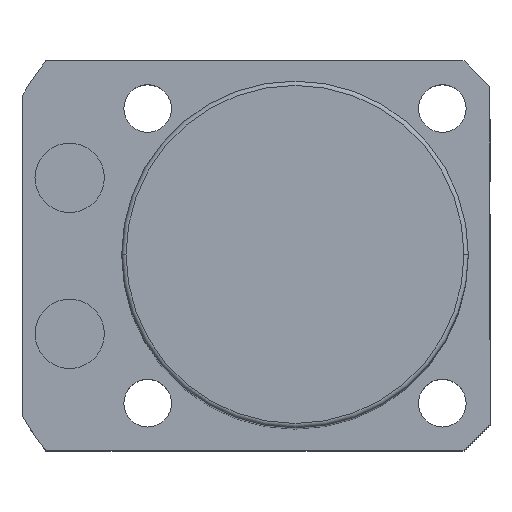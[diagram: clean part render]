
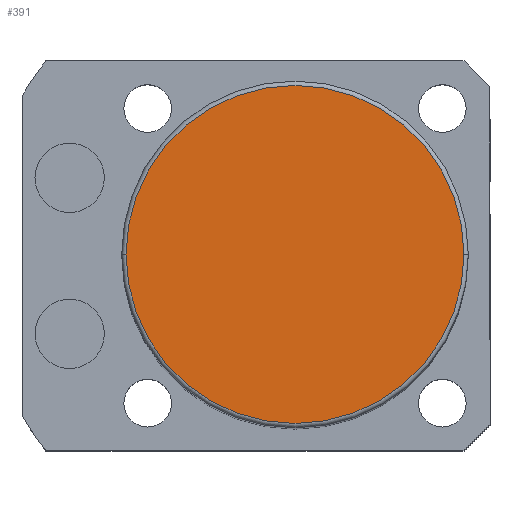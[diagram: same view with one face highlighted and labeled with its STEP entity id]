
A CAD part, top view. The second image highlights one B-rep face of the part: STEP entity #391.
In plain terms, the highlighted planar face has unit normal (0, 0, 1).
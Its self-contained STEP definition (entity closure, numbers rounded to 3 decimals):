
#75 = CARTESIAN_POINT ( 'NONE',  ( 0., 0., 103.5 ) ) ;
#217 = CARTESIAN_POINT ( 'NONE',  ( 19.5, 0., 103.5 ) ) ;
#261 = DIRECTION ( 'NONE',  ( 0., 0., 1. ) ) ;
#391 = ADVANCED_FACE ( 'NONE', ( #2283 ), #1813, .T. ) ;
#451 = VERTEX_POINT ( 'NONE', #217 ) ;
#626 = EDGE_CURVE ( 'NONE', #451, #1687, #1806, .T. ) ;
#687 = DIRECTION ( 'NONE',  ( 1., 0., 0. ) ) ;
#700 = DIRECTION ( 'NONE',  ( 0., 0., 1. ) ) ;
#736 = DIRECTION ( 'NONE',  ( 1., 0., 0. ) ) ;
#839 = EDGE_CURVE ( 'NONE', #1687, #451, #2363, .T. ) ;
#898 = DIRECTION ( 'NONE',  ( 0., 0., 1. ) ) ;
#964 = DIRECTION ( 'NONE',  ( 1., 0., 0. ) ) ;
#1408 = EDGE_LOOP ( 'NONE', ( #2354, #2275 ) ) ;
#1687 = VERTEX_POINT ( 'NONE', #1836 ) ;
#1750 = CARTESIAN_POINT ( 'NONE',  ( 0., 0., 103.5 ) ) ;
#1762 = AXIS2_PLACEMENT_3D ( 'NONE', #1750, #700, #687 ) ;
#1806 = CIRCLE ( 'NONE', #2097, 19.5 ) ;
#1813 = PLANE ( 'NONE',  #1922 ) ;
#1826 = CARTESIAN_POINT ( 'NONE',  ( 0., 0., 103.5 ) ) ;
#1836 = CARTESIAN_POINT ( 'NONE',  ( -19.5, 0., 103.5 ) ) ;
#1922 = AXIS2_PLACEMENT_3D ( 'NONE', #1826, #898, #736 ) ;
#2097 = AXIS2_PLACEMENT_3D ( 'NONE', #75, #261, #964 ) ;
#2275 = ORIENTED_EDGE ( 'NONE', *, *, #839, .T. ) ;
#2283 = FACE_OUTER_BOUND ( 'NONE', #1408, .T. ) ;
#2354 = ORIENTED_EDGE ( 'NONE', *, *, #626, .T. ) ;
#2363 = CIRCLE ( 'NONE', #1762, 19.5 ) ;
